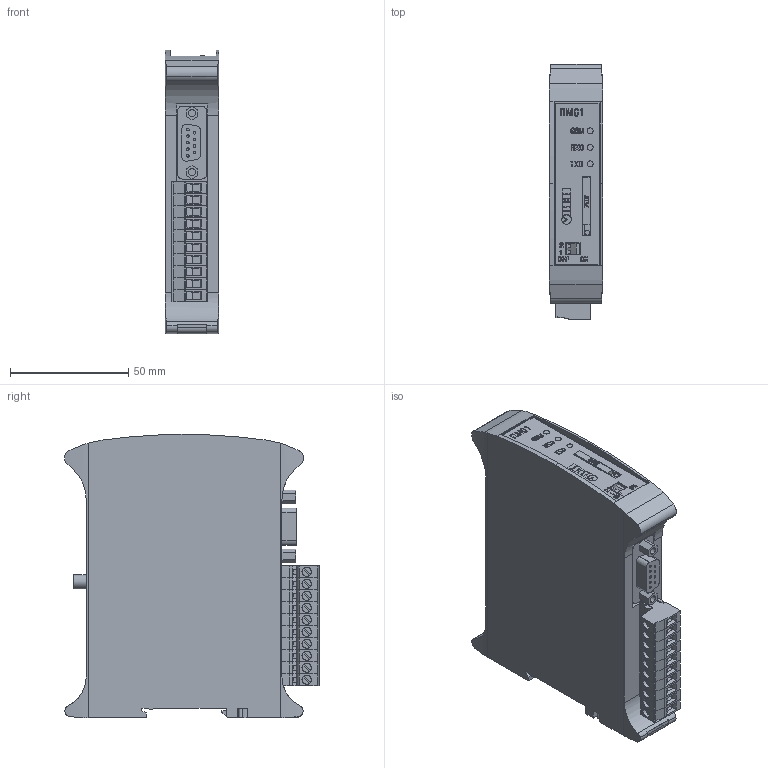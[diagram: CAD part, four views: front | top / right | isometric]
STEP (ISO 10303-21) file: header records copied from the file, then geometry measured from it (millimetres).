
FILE_DESCRIPTION (( 'STEP AP214' ), '1' );
FILE_NAME ('3D 沓麧錪 玶01-X.X.STEP', '2016-03-16T11:48:41', ( '' ), ( '' ), 'SwSTEP 2.0', 'SolidWorks 2014', '' );
FILE_SCHEMA (( 'AUTOMOTIVE_DESIGN' ));
Length unit declared in the file: millimetre
Products named in the file (10): 冓踖樦 9pin; 抔樦憵 2edgk-5,08-2p; 抔樦憵 2edgk-5,08-1p; 冓踖樦 2EDGR-5.08-2p; 冓踖樦 2EDGR-5.08-1p; Dip-ïåðåêëþ÷àòåëü êð; Ôèêñàòîð ÈÑÊÐÀ; Ïàíåëü ëèöåâàÿ ÏÌ-01; 扻豵鵨 玶-01; 3D 沓麧錪 玶01-X.X
Assembly tree (19 placements, depth 3):
  3D 沓麧錪 玶01-X.X
    扻豵鵨 玶-01
    Ïàíåëü ëèöåâàÿ ÏÌ-01
    Ôèêñàòîð ÈÑÊÐÀ
    Dip-ïåðåêëþ÷àòåëü êð
    冓踖樦 2EDGR-5.08-2p  x5
      冓踖樦 2EDGR-5.08-1p
    抔樦憵 2edgk-5,08-2p  x5
      抔樦憵 2edgk-5,08-1p
    冓踖樦 9pin
Bounding box: 22.5 x 108.02 x 120 mm (x, y, z)
Volume: 227017.4 mm3; surface area: 52230.6 mm2
Topology: 25 solids, 25 shells, 4743 faces, 13752 edges, 9204 vertices
Faces by surface type: plane 4370, cylinder 266, bspline 97, cone 10
Entity records: 168454 total; most frequent: CARTESIAN_POINT 24873, ORIENTED_EDGE 23040, DIRECTION 19067, EDGE_CURVE 11520, VECTOR 11105, LINE 11105, VERTEX_POINT 7755, AXIS2_PLACEMENT_3D 3981
